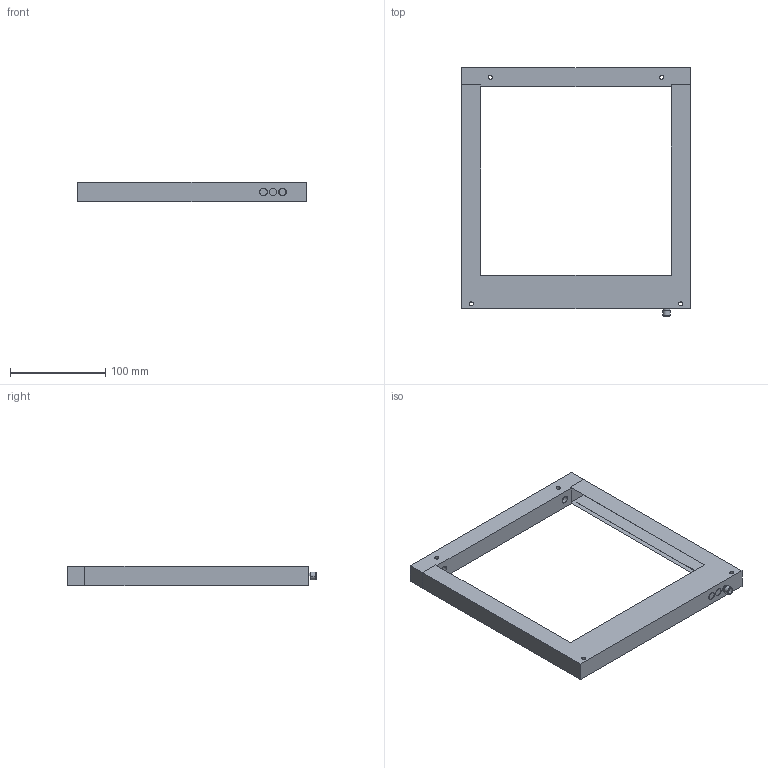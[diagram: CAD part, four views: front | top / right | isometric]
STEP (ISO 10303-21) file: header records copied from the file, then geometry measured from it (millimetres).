
FILE_DESCRIPTION(('STEP AP214'),'1');
FILE_NAME('Z:/Projekte/Webseite/Download/tmp0.step','2019-05-21T12:35:32',(' '),(' '),'Spatial InterOp 3D',' ',' ');
FILE_SCHEMA(('automotive_design'));
Length unit declared in the file: millimetre
Products named in the file (3): 18
Bounding box: 240 x 261 x 20 mm (x, y, z)
Volume: 92986.8 mm3; surface area: 74499.5 mm2
Topology: 1 solids, 23 shells, 54 faces, 202 edges, 170 vertices
Faces by surface type: plane 24, cylinder 20, revolution 10
Entity records: 2708 total; most frequent: CARTESIAN_POINT 457, DIRECTION 378, ORIENTED_EDGE 278, EDGE_CURVE 202, VERTEX_POINT 170, AXIS2_PLACEMENT_3D 127, LINE 114, VECTOR 114
